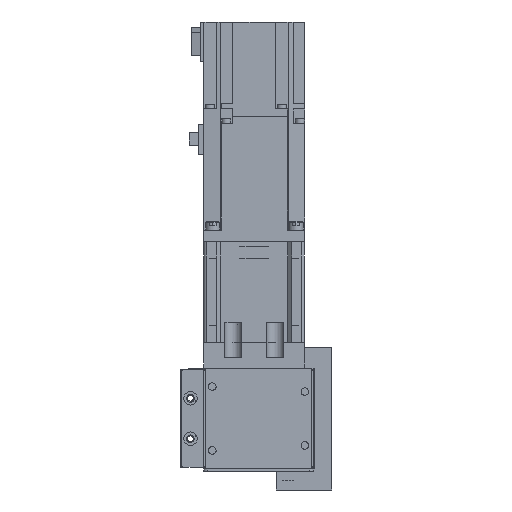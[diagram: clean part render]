
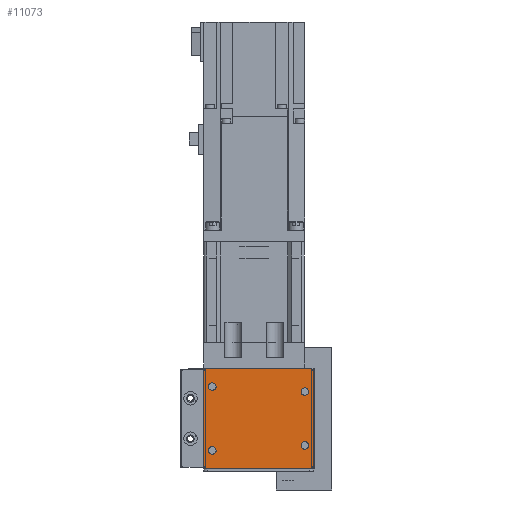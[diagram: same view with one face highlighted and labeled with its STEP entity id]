
A CAD part, left-side view. The second image highlights one B-rep face of the part: STEP entity #11073.
In plain terms, the highlighted planar face has unit normal (-1, 0, 0) as drawn and (0, 0, 1) by its records, which use the part's own axes.
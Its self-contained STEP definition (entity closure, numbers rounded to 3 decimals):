
#521=CIRCLE('',#12021,2.);
#523=CIRCLE('',#12025,2.);
#525=CIRCLE('',#12029,2.);
#526=CIRCLE('',#12032,2.25);
#528=CIRCLE('',#12035,2.25);
#530=CIRCLE('',#12038,2.25);
#532=CIRCLE('',#12041,2.25);
#535=CIRCLE('',#12045,2.);
#1757=ORIENTED_EDGE('',*,*,#4321,.F.);
#1758=ORIENTED_EDGE('',*,*,#4319,.F.);
#1759=ORIENTED_EDGE('',*,*,#4317,.F.);
#1760=ORIENTED_EDGE('',*,*,#4315,.F.);
#1761=ORIENTED_EDGE('',*,*,#4295,.T.);
#1762=ORIENTED_EDGE('',*,*,#4299,.T.);
#1763=ORIENTED_EDGE('',*,*,#4302,.T.);
#1764=ORIENTED_EDGE('',*,*,#4305,.T.);
#1765=ORIENTED_EDGE('',*,*,#4308,.T.);
#1766=ORIENTED_EDGE('',*,*,#4311,.T.);
#1767=ORIENTED_EDGE('',*,*,#4314,.T.);
#1768=ORIENTED_EDGE('',*,*,#4324,.T.);
#4295=EDGE_CURVE('',#5697,#5696,#6717,.T.);
#4299=EDGE_CURVE('',#5696,#5699,#521,.T.);
#4302=EDGE_CURVE('',#5699,#5701,#6722,.T.);
#4305=EDGE_CURVE('',#5701,#5703,#523,.T.);
#4308=EDGE_CURVE('',#5703,#5705,#6726,.T.);
#4311=EDGE_CURVE('',#5705,#5707,#525,.T.);
#4314=EDGE_CURVE('',#5707,#5709,#6730,.T.);
#4315=EDGE_CURVE('',#5710,#5710,#526,.T.);
#4317=EDGE_CURVE('',#5712,#5712,#528,.T.);
#4319=EDGE_CURVE('',#5714,#5714,#530,.T.);
#4321=EDGE_CURVE('',#5716,#5716,#532,.T.);
#4324=EDGE_CURVE('',#5709,#5697,#535,.T.);
#5696=VERTEX_POINT('',#17059);
#5697=VERTEX_POINT('',#17061);
#5699=VERTEX_POINT('',#17067);
#5701=VERTEX_POINT('',#17073);
#5703=VERTEX_POINT('',#17079);
#5705=VERTEX_POINT('',#17085);
#5707=VERTEX_POINT('',#17091);
#5709=VERTEX_POINT('',#17097);
#5710=VERTEX_POINT('',#17101);
#5712=VERTEX_POINT('',#17106);
#5714=VERTEX_POINT('',#17111);
#5716=VERTEX_POINT('',#17116);
#6717=LINE('',#17060,#7809);
#6722=LINE('',#17074,#7814);
#6726=LINE('',#17086,#7818);
#6730=LINE('',#17098,#7822);
#7809=VECTOR('',#13836,1000.);
#7814=VECTOR('',#13849,1000.);
#7818=VECTOR('',#13861,1000.);
#7822=VECTOR('',#13873,1000.);
#8997=EDGE_LOOP('',(#1757));
#8998=EDGE_LOOP('',(#1758));
#8999=EDGE_LOOP('',(#1759));
#9000=EDGE_LOOP('',(#1760));
#9001=EDGE_LOOP('',(#1761,#1762,#1763,#1764,#1765,#1766,#1767,#1768));
#9895=FACE_BOUND('',#8997,.T.);
#9896=FACE_BOUND('',#8998,.T.);
#9897=FACE_BOUND('',#8999,.T.);
#9898=FACE_BOUND('',#9000,.T.);
#9899=FACE_BOUND('',#9001,.T.);
#10541=PLANE('',#12046);
#11073=ADVANCED_FACE('',(#9895,#9896,#9897,#9898,#9899),#10541,.T.);
#12021=AXIS2_PLACEMENT_3D('',#17068,#13843,#13844);
#12025=AXIS2_PLACEMENT_3D('',#17080,#13855,#13856);
#12029=AXIS2_PLACEMENT_3D('',#17092,#13867,#13868);
#12032=AXIS2_PLACEMENT_3D('',#17100,#13876,#13877);
#12035=AXIS2_PLACEMENT_3D('',#17105,#13882,#13883);
#12038=AXIS2_PLACEMENT_3D('',#17110,#13888,#13889);
#12041=AXIS2_PLACEMENT_3D('',#17115,#13894,#13895);
#12045=AXIS2_PLACEMENT_3D('',#17121,#13902,#13903);
#12046=AXIS2_PLACEMENT_3D('',#17122,#13904,#13905);
#13836=DIRECTION('',(0.,-1.,0.));
#13843=DIRECTION('',(0.,0.,1.));
#13844=DIRECTION('',(1.,0.,0.));
#13849=DIRECTION('',(1.,0.,0.));
#13855=DIRECTION('',(0.,0.,1.));
#13856=DIRECTION('',(1.,0.,0.));
#13861=DIRECTION('',(0.,1.,0.));
#13867=DIRECTION('',(0.,0.,1.));
#13868=DIRECTION('',(1.,0.,0.));
#13873=DIRECTION('',(-1.,0.,0.));
#13876=DIRECTION('',(0.,0.,1.));
#13877=DIRECTION('',(1.,0.,0.));
#13882=DIRECTION('',(0.,0.,1.));
#13883=DIRECTION('',(1.,0.,0.));
#13888=DIRECTION('',(0.,0.,1.));
#13889=DIRECTION('',(1.,0.,0.));
#13894=DIRECTION('',(0.,0.,1.));
#13895=DIRECTION('',(1.,0.,0.));
#13902=DIRECTION('',(0.,0.,1.));
#13903=DIRECTION('',(1.,0.,0.));
#13904=DIRECTION('',(0.,0.,1.));
#13905=DIRECTION('',(1.,0.,0.));
#17059=CARTESIAN_POINT('',(-30.,-30.5,1.5));
#17060=CARTESIAN_POINT('',(-30.,30.5,1.5));
#17061=CARTESIAN_POINT('',(-30.,30.5,1.5));
#17067=CARTESIAN_POINT('',(-28.,-32.5,1.5));
#17068=CARTESIAN_POINT('',(-28.,-30.5,1.5));
#17073=CARTESIAN_POINT('',(28.,-32.5,1.5));
#17074=CARTESIAN_POINT('',(-28.,-32.5,1.5));
#17079=CARTESIAN_POINT('',(30.,-30.5,1.5));
#17080=CARTESIAN_POINT('',(28.,-30.5,1.5));
#17085=CARTESIAN_POINT('',(30.,30.5,1.5));
#17086=CARTESIAN_POINT('',(30.,-30.5,1.5));
#17091=CARTESIAN_POINT('',(28.,32.5,1.5));
#17092=CARTESIAN_POINT('',(28.,30.5,1.5));
#17097=CARTESIAN_POINT('',(-28.,32.5,1.5));
#17098=CARTESIAN_POINT('',(28.,32.5,1.5));
#17100=CARTESIAN_POINT('',(19.,27.5,1.5));
#17101=CARTESIAN_POINT('',(21.25,27.5,1.5));
#17105=CARTESIAN_POINT('',(16.,-27.5,1.5));
#17106=CARTESIAN_POINT('',(18.25,-27.5,1.5));
#17110=CARTESIAN_POINT('',(-16.,-27.5,1.5));
#17111=CARTESIAN_POINT('',(-13.75,-27.5,1.5));
#17115=CARTESIAN_POINT('',(-19.,27.5,1.5));
#17116=CARTESIAN_POINT('',(-16.75,27.5,1.5));
#17121=CARTESIAN_POINT('',(-28.,30.5,1.5));
#17122=CARTESIAN_POINT('',(-28.,-30.5,1.5));
